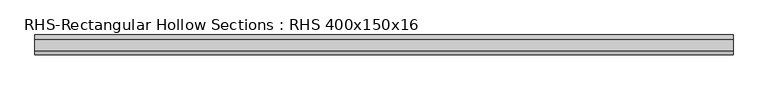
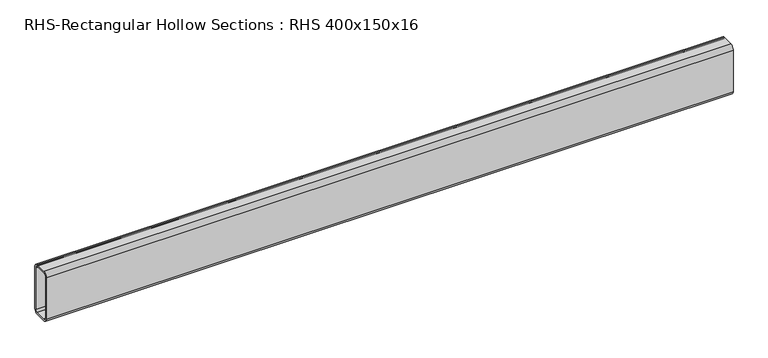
"""IFC4 building model written with IfcOpenShell, lengths in millimetres: beam geometry, RHS-Rectangular Hollow Sections : RHS 400x150x16."""

from ifc_helpers import new_model, si_unit, point, frame, frame_2d, origin, place, context, project, spatial, polyline, circle_curve, trimmed, segment, composite_curve, outline, extrude, source, transform, mapped, element, save


def rhs_rectangular_hollow_sections_rhs_400x150x16_8b646e73(model_context):
    return source(origin(), model_context, "Body", "SweptSolid", [
        extrude(outline(composite_curve([segment(polyline([(75.0, 168.0), (75.0, -168.0)]), True, "CONTINUOUS"), segment(trimmed(circle_curve(frame_2d((43.0, -168.0)), 32.0), [point((75.0, -168.0))], [point((43.0, -200.0))], False, "CARTESIAN"), True, "CONTINUOUS"), segment(polyline([(43.0, -200.0), (-43.0, -200.0)]), True, "CONTINUOUS"), segment(trimmed(circle_curve(frame_2d((-43.0, -168.0)), 32.0), [point((-43.0, -200.0))], [point((-75.0, -168.0))], False, "CARTESIAN"), True, "CONTINUOUS"), segment(polyline([(-75.0, -168.0), (-75.0, 168.0)]), True, "CONTINUOUS"), segment(trimmed(circle_curve(frame_2d((-43.0, 168.0)), 32.0), [point((-75.0, 168.0))], [point((-43.0, 200.0))], False, "CARTESIAN"), True, "CONTINUOUS"), segment(polyline([(-43.0, 200.0), (43.0, 200.0)]), True, "CONTINUOUS"), segment(trimmed(circle_curve(frame_2d((43.0, 168.0)), 32.0), [point((43.0, 200.0))], [point((75.0, 168.0))], False, "CARTESIAN"), True, "CONTINUOUS")], self_intersect=False), holes=[composite_curve([segment(trimmed(circle_curve(frame_2d((-43.0, 168.0)), 16.0), [point((-43.0, 184.0))], [point((-59.0, 168.0))], True, "CARTESIAN"), True, "CONTINUOUS"), segment(polyline([(-59.0, 168.0), (-59.0, -168.0)]), True, "CONTINUOUS"), segment(trimmed(circle_curve(frame_2d((-43.0, -168.0)), 16.0), [point((-59.0, -168.0))], [point((-43.0, -184.0))], True, "CARTESIAN"), True, "CONTINUOUS"), segment(polyline([(-43.0, -184.0), (43.0, -184.0)]), True, "CONTINUOUS"), segment(trimmed(circle_curve(frame_2d((43.0, -168.0)), 16.0), [point((43.0, -184.0))], [point((59.0, -168.0))], True, "CARTESIAN"), True, "CONTINUOUS"), segment(polyline([(59.0, -168.0), (59.0, 168.0)]), True, "CONTINUOUS"), segment(trimmed(circle_curve(frame_2d((43.0, 168.0)), 16.0), [point((59.0, 168.0))], [point((43.0, 184.0))], True, "CARTESIAN"), True, "CONTINUOUS"), segment(polyline([(43.0, 184.0), (-43.0, 184.0)]), True, "CONTINUOUS")], self_intersect=False)]), frame((-2626.5, 0.0, 0.0), z_axis=(1.0, 0.0, 0.0), x_axis=(0.0, 1.0, 0.0)), (0.0, 0.0, 1.0), 5253.0),
    ])


if __name__ == "__main__":
    model = new_model("IFC4")
    model_context = context("Model", 3, world=origin())
    ifc_project = project(units=[si_unit("LENGTHUNIT", "METRE", prefix="MILLI")], contexts=[model_context])
    site = spatial("IfcSite", under=ifc_project)
    building = spatial("IfcBuilding", under=site)
    placement = place(None, origin())
    rhs_rectangular_hollow_sections_rhs_400x150x16_shape = rhs_rectangular_hollow_sections_rhs_400x150x16_8b646e73(model_context)
    element("IfcBeam", 1, ObjectType="RHS-Rectangular Hollow Sections : RHS 400x150x16", at=placement, inside=building, context=model_context, shape_type="MappedRepresentation", body=[
        mapped(rhs_rectangular_hollow_sections_rhs_400x150x16_shape, transform((0.0, 0.0, 0.0), x_axis=(1.0, 0.0, 0.0), y_axis=(0.0, 1.0, 0.0), z_axis=(0.0, 0.0, 1.0))),
    ])
    save(model, "model.ifc")
